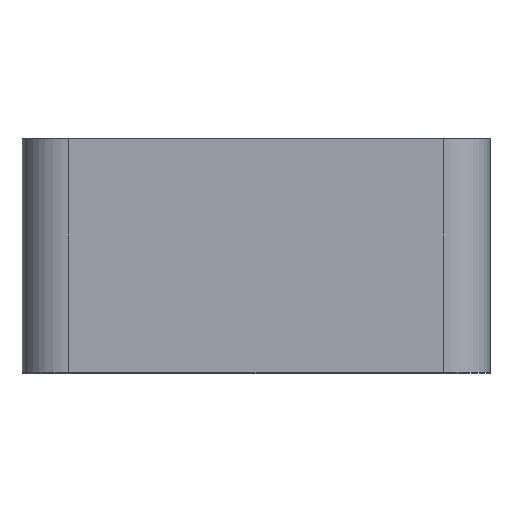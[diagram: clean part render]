
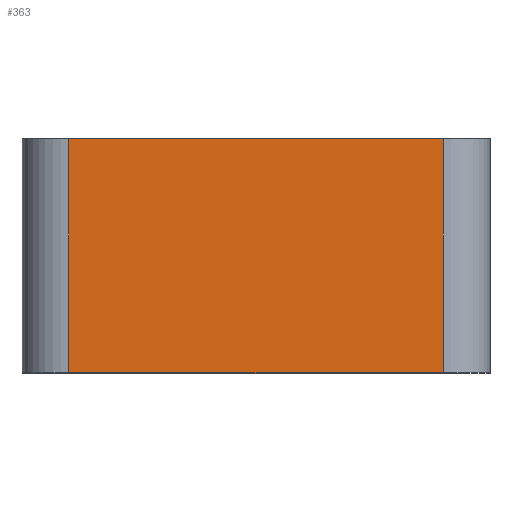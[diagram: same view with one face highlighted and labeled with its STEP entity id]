
A CAD part, top view. The second image highlights one B-rep face of the part: STEP entity #363.
In plain terms, the highlighted planar face has unit normal (0, 0, 1).
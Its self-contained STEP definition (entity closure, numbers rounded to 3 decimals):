
#363=ADVANCED_FACE('',(#731),#732,.T.);
#731=FACE_OUTER_BOUND('',#1104,.T.);
#732=PLANE('',#1105);
#1104=EDGE_LOOP('',(#2039,#2040,#2041,#2042));
#1105=AXIS2_PLACEMENT_3D('',#2043,#2044,#2045);
#2039=ORIENTED_EDGE('',*,*,#2713,.T.);
#2040=ORIENTED_EDGE('',*,*,#2714,.F.);
#2041=ORIENTED_EDGE('',*,*,#2467,.F.);
#2042=ORIENTED_EDGE('',*,*,#2711,.T.);
#2043=CARTESIAN_POINT('',(0.0,10.0,20.0));
#2044=DIRECTION('',(0.0,0.0,1.0));
#2045=DIRECTION('',(-1.0,0.0,-0.0));
#2467=EDGE_CURVE('',#3029,#3031,#3032,.T.);
#2711=EDGE_CURVE('',#3029,#3366,#3368,.T.);
#2713=EDGE_CURVE('',#3366,#3370,#3371,.T.);
#2714=EDGE_CURVE('',#3031,#3370,#3372,.T.);
#3029=VERTEX_POINT('',#3784);
#3031=VERTEX_POINT('',#3786);
#3032=LINE('',#3787,#3788);
#3366=VERTEX_POINT('',#4242);
#3368=LINE('',#4244,#4245);
#3370=VERTEX_POINT('',#4247);
#3371=LINE('',#4248,#4249);
#3372=LINE('',#4250,#4251);
#3784=CARTESIAN_POINT('',(-16.0,10.0,20.0));
#3786=CARTESIAN_POINT('',(16.0,10.0,20.0));
#3787=CARTESIAN_POINT('',(-16.0,10.0,20.0));
#3788=VECTOR('',#4601,1.0);
#4242=CARTESIAN_POINT('',(-16.0,-10.0,20.0));
#4244=CARTESIAN_POINT('',(-16.0,10.0,20.0));
#4245=VECTOR('',#4866,1.0);
#4247=CARTESIAN_POINT('',(16.0,-10.0,20.0));
#4248=CARTESIAN_POINT('',(-16.0,-10.0,20.0));
#4249=VECTOR('',#4867,1.0);
#4250=CARTESIAN_POINT('',(16.0,10.0,20.0));
#4251=VECTOR('',#4868,1.0);
#4601=DIRECTION('',(1.0,0.0,0.0));
#4866=DIRECTION('',(0.0,-1.0,0.0));
#4867=DIRECTION('',(1.0,0.0,0.0));
#4868=DIRECTION('',(0.0,-1.0,0.0));
